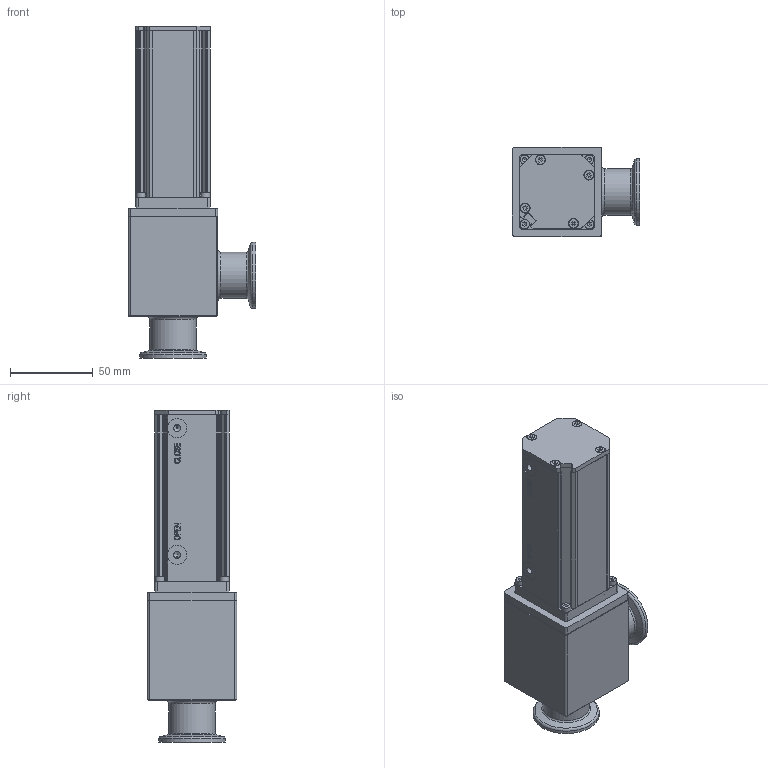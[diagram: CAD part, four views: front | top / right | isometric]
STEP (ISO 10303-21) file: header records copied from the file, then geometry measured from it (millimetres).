
FILE_DESCRIPTION(/* description */ (''),/* implementation_level */ '2;1');
FILE_NAME(/* name */ '1368462360_203.stp',/* time_stamp */ '2013-07-16T12:45:36+02:00',/* author */ (''),/* organization */ (''),/* preprocessor_version */ 'ST-DEVELOPER v11',/* originating_system */ 'SIEMENS PLM Software NX 7.5',/* authorisation */ '');
FILE_SCHEMA (('AP203_CONFIGURATION_CONTROLLED_3D_DESIGN_OF_MECHANICAL_PARTS_AND_ASSEMBLIES_MIM_LF'));
Length unit declared in the file: millimetre
Products named in the file (8): 320416.1; 406780; 408520; n-6013-433.1; 430597; 442705; 518062; 487367
Assembly tree (13 placements, depth 2):
  487367
    518062
    442705
    430597
    n-6013-433.1  x4
    408520
    406780
    320416.1  x4
Bounding box: 77 x 54 x 200.75 mm (x, y, z)
Volume: 199009.3 mm3; surface area: 95577.5 mm2
Topology: 21 solids, 21 shells, 567 faces, 1430 edges, 934 vertices
Faces by surface type: plane 312, cylinder 159, cone 63, extrusion 20, torus 13
Full cylindrical faces by diameter (mm): 1 x2, 1.5 x2, 2.46 x4, 2.5 x16, 3 x12, 3.2 x4, 3.3 x8, 3.5 x4, 4.2 x2, 5.5 x4, 5.6 x4, 5.7 x4, 11.5 x2, 17.5 x1, 24.8 x1, 25 x2, 26.3 x2, 28 x2, 30.6 x1, 33 x1, 35 x1, 37.1 x1, 37.45 x1, 40 x2, 40.18 x2, 40.2 x1, 44.37 x1, 47.5 x1, 48.25 x1, 48.525 x1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
Entity records: 15183 total; most frequent: CARTESIAN_POINT 3580, DIRECTION 2082, ORIENTED_EDGE 2004, EDGE_CURVE 1002, AXIS2_PLACEMENT_3D 787, VERTEX_POINT 727, EDGE_LOOP 657, VECTOR 508
